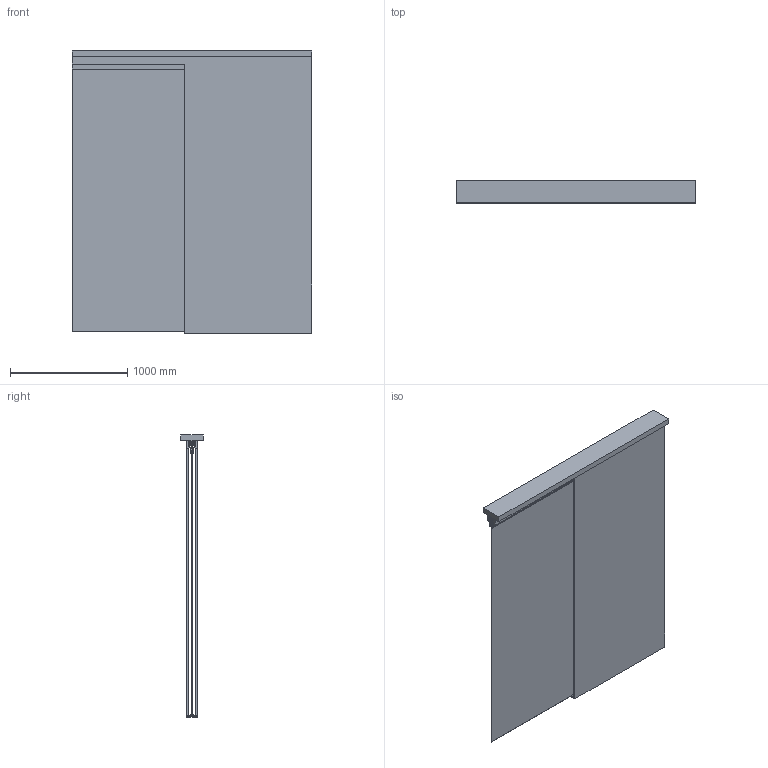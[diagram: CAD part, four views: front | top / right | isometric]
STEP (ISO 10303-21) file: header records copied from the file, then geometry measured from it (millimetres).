
FILE_DESCRIPTION(('STEP AP242'),'1');
FILE_NAME('OPO_56.047.52.stp','2026-02-23T17:26:34',(' '),(' '),'Spatial InterOp 3D',' ',' ');
FILE_SCHEMA(('AP242_MANAGED_MODEL_BASED_3D_ENGINEERING_MIM_LF {1 0 10303 442 1 1 4}'));
Length unit declared in the file: millimetre
Products named in the file (11): Zeichnung1; OPO_56.037.36; OPO_56.047.52_Klemmschuh_Glas_Spaceship_120; OPO_56.047.52_Bodenfuehrung_Pocket_Glas; OPO_56.047.52_Aktivator; OPO_56.047.52_Laufwerk_SS_160; OPO_56.047.52_Laufwerk_SS_160_mit_Zweiwege_Daempfer; OPO_56.047.52_Endstopper; OPO_56.047.52_Abdeckung_fuer_Revisionsoeffnung; OPO_56.047.52_Aktivator_lang_Spaceship_160; AutoCreatedBlock_13A
Assembly tree (13 placements, depth 2):
  Zeichnung1
    OPO_56.037.36  x2
    OPO_56.047.52_Klemmschuh_Glas_Spaceship_120  x2
    OPO_56.047.52_Bodenfuehrung_Pocket_Glas
    OPO_56.047.52_Aktivator
    OPO_56.047.52_Laufwerk_SS_160
    OPO_56.047.52_Laufwerk_SS_160_mit_Zweiwege_Daempfer
    OPO_56.047.52_Endstopper  x2
    OPO_56.047.52_Abdeckung_fuer_Revisionsoeffnung
    OPO_56.047.52_Aktivator_lang_Spaceship_160
    AutoCreatedBlock_13A
Bounding box: 2050 x 188 x 2410 mm (x, y, z)
Volume: 139354147.4 mm3; surface area: 18170273 mm2
Topology: 113 solids, 113 shells, 2201 faces, 5571 edges, 3697 vertices
Faces by surface type: plane 1395, cylinder 786, cone 20
Entity records: 66265 total; most frequent: DIRECTION 9137, CARTESIAN_POINT 9068, ORIENTED_EDGE 8746, EDGE_CURVE 4373, LINE 3073, VECTOR 3073, AXIS2_PLACEMENT_3D 3032, VERTEX_POINT 2899
